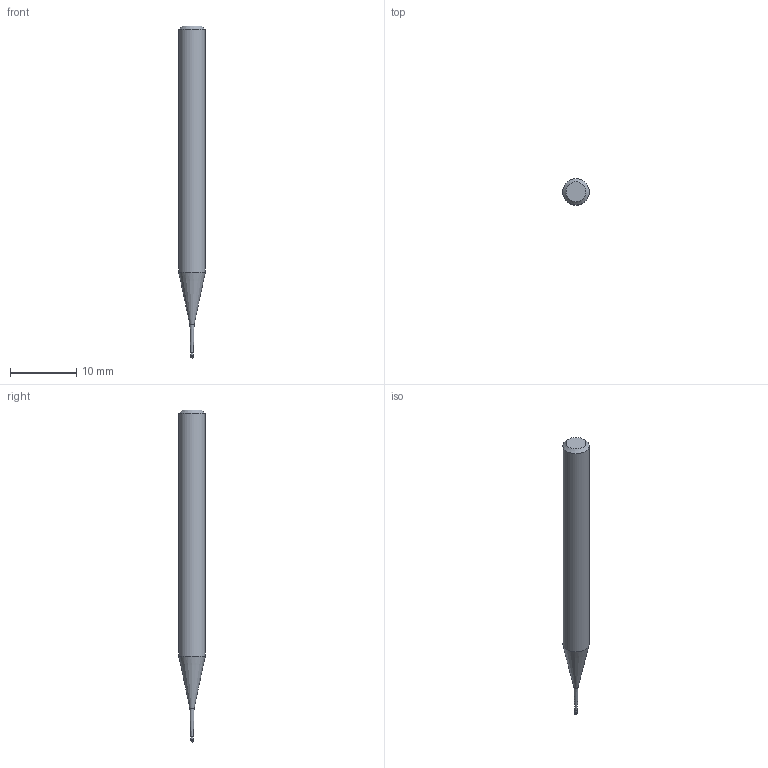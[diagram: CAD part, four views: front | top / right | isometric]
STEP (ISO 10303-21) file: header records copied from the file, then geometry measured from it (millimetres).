
FILE_DESCRIPTION((''),'2;1');
FILE_NAME('C:\Users\nsx150\AppData\Local\Temp\Mastercam 2021\SNAKH10GOD\TEMP.step','2021-10-21T13:31:00',(''),(''),'STEP Write','Mastercam 2021 ... CNC Software, Inc.','');
FILE_SCHEMA(('AUTOMOTIVE_DESIGN'));
Length unit declared in the file: millimetre
Products named in the file (1): None
Bounding box: 4 x 4 x 50 mm (x, y, z)
Volume: 504.4 mm3; surface area: 541.1 mm2
Topology: 2 solids, 2 shells, 10 faces, 16 edges, 9 vertices
Faces by surface type: plane 3, cylinder 3, cone 3, sphere 1
Full cylindrical faces by diameter (mm): 0.395 x1, 0.4 x1, 4 x1
Entity records: 232 total; most frequent: DIRECTION 40, CARTESIAN_POINT 28, AXIS2_PLACEMENT_3D 20, ORIENTED_EDGE 16, EDGE_LOOP 16, STYLED_ITEM 13, ADVANCED_FACE 10, FACE_BOUND 9
